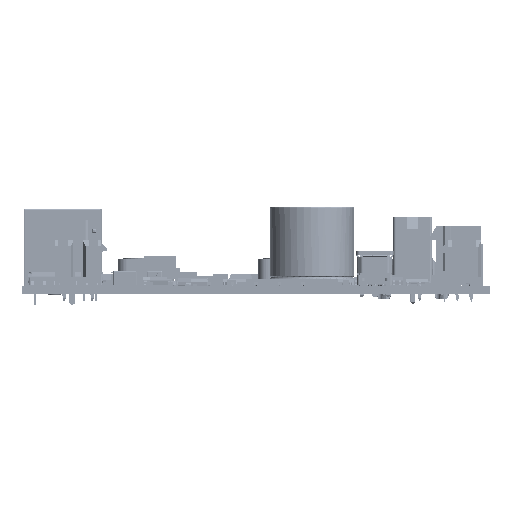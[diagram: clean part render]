
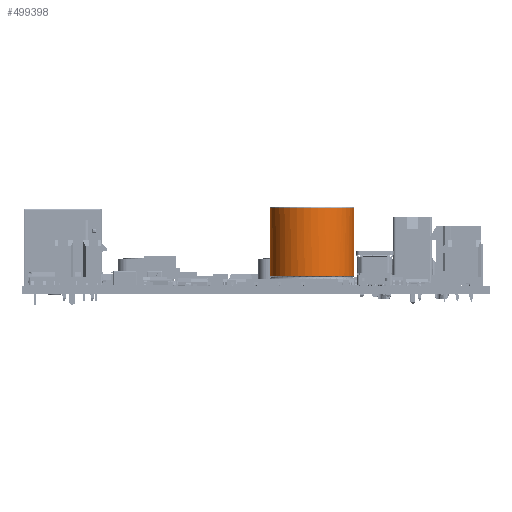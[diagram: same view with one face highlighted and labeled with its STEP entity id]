
A CAD part, left-side view. The second image highlights one B-rep face of the part: STEP entity #499398.
In plain terms, the highlighted cylindrical face has radius 9 mm (diameter 18 mm), a full revolution.
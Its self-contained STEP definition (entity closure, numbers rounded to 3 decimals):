
#29431=CIRCLE('',#537153,9.);
#29432=CIRCLE('',#537154,9.);
#29439=CIRCLE('',#537173,9.);
#29440=CIRCLE('',#537174,9.);
#29441=CIRCLE('',#537175,9.);
#39696=CYLINDRICAL_SURFACE('',#537172,9.);
#44625=FACE_OUTER_BOUND('',#72127,.T.);
#72127=EDGE_LOOP('',(#336587,#336588,#336589,#336590,#336591,#336592,#336593));
#100060=LINE('',#714445,#158206);
#158206=VECTOR('',#577621,9.);
#216824=VERTEX_POINT('',#714395);
#216825=VERTEX_POINT('',#714397);
#216834=VERTEX_POINT('',#714440);
#216835=VERTEX_POINT('',#714441);
#216836=VERTEX_POINT('',#714443);
#263752=EDGE_CURVE('',#216824,#216825,#29431,.T.);
#263753=EDGE_CURVE('',#216825,#216824,#29432,.T.);
#263774=EDGE_CURVE('',#216834,#216835,#29439,.T.);
#263775=EDGE_CURVE('',#216835,#216836,#29440,.T.);
#263776=EDGE_CURVE('',#216836,#216825,#100060,.T.);
#263777=EDGE_CURVE('',#216836,#216834,#29441,.T.);
#336587=ORIENTED_EDGE('',*,*,#263774,.T.);
#336588=ORIENTED_EDGE('',*,*,#263775,.T.);
#336589=ORIENTED_EDGE('',*,*,#263776,.T.);
#336590=ORIENTED_EDGE('',*,*,#263752,.F.);
#336591=ORIENTED_EDGE('',*,*,#263753,.F.);
#336592=ORIENTED_EDGE('',*,*,#263776,.F.);
#336593=ORIENTED_EDGE('',*,*,#263777,.T.);
#499398=ADVANCED_FACE('',(#44625),#39696,.T.);
#537153=AXIS2_PLACEMENT_3D('',#714398,#577563,#577564);
#537154=AXIS2_PLACEMENT_3D('',#714399,#577565,#577566);
#537172=AXIS2_PLACEMENT_3D('',#714439,#577615,#577616);
#537173=AXIS2_PLACEMENT_3D('',#714442,#577617,#577618);
#537174=AXIS2_PLACEMENT_3D('',#714444,#577619,#577620);
#537175=AXIS2_PLACEMENT_3D('',#714446,#577622,#577623);
#577563=DIRECTION('center_axis',(0.,0.,-1.));
#577564=DIRECTION('ref_axis',(0.809,0.588,0.));
#577565=DIRECTION('center_axis',(0.,0.,-1.));
#577566=DIRECTION('ref_axis',(0.809,0.588,0.));
#577615=DIRECTION('center_axis',(0.,0.,1.));
#577616=DIRECTION('ref_axis',(1.,0.,0.));
#577617=DIRECTION('center_axis',(0.,0.,-1.));
#577618=DIRECTION('ref_axis',(1.,0.,0.));
#577619=DIRECTION('center_axis',(0.,0.,-1.));
#577620=DIRECTION('ref_axis',(1.,0.,0.));
#577621=DIRECTION('',(0.,0.,-1.));
#577622=DIRECTION('center_axis',(0.,0.,-1.));
#577623=DIRECTION('ref_axis',(1.,0.,0.));
#714395=CARTESIAN_POINT('',(9.,0.,2.133));
#714397=CARTESIAN_POINT('',(-9.,0.,2.133));
#714398=CARTESIAN_POINT('Origin',(0.,0.,
2.133));
#714399=CARTESIAN_POINT('Origin',(0.,0.,
2.133));
#714439=CARTESIAN_POINT('Origin',(0.,0.,2.05));
#714440=CARTESIAN_POINT('',(-2.7,8.585,16.8));
#714441=CARTESIAN_POINT('',(-2.7,-8.585,16.8));
#714442=CARTESIAN_POINT('Origin',(0.,0.,16.8));
#714443=CARTESIAN_POINT('',(-9.,0.,16.8));
#714444=CARTESIAN_POINT('Origin',(0.,0.,16.8));
#714445=CARTESIAN_POINT('',(-9.,0.,2.05));
#714446=CARTESIAN_POINT('Origin',(0.,0.,16.8));
